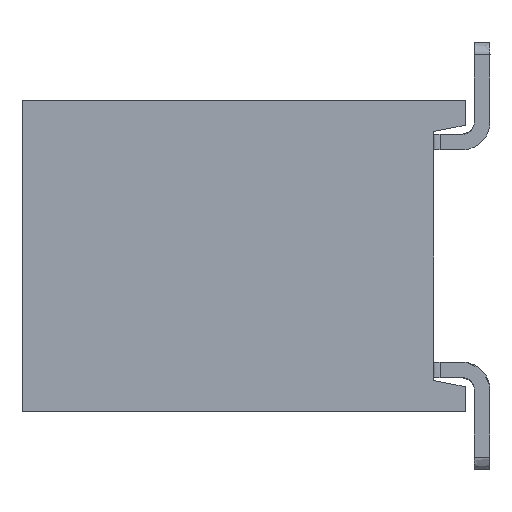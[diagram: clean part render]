
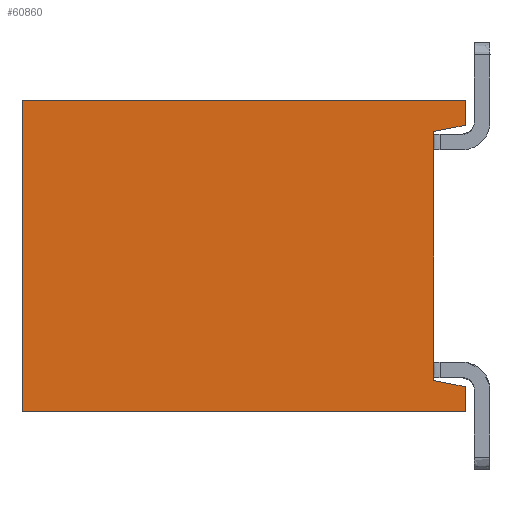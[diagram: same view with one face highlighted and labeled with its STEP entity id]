
A CAD part, left-side view. The second image highlights one B-rep face of the part: STEP entity #60860.
In plain terms, the highlighted planar face has unit normal (-1, 0, 0).
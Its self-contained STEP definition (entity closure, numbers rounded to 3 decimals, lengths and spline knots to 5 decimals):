
#506 = EDGE_CURVE ( 'NONE', #39117, #59824, #57997, .T. ) ;
#1946 = VERTEX_POINT ( 'NONE', #34047 ) ;
#3083 = CARTESIAN_POINT ( 'NONE',  ( 0., -0.27953, -0.18091 ) ) ;
#4962 = CARTESIAN_POINT ( 'NONE',  ( 0., -0.28512, -0.20079 ) ) ;
#5281 = EDGE_CURVE ( 'NONE', #38962, #56609, #55594, .T. ) ;
#6433 = VECTOR ( 'NONE', #21736, 39.37008 ) ;
#7430 = DIRECTION ( 'NONE',  ( 0., 0., 1. ) ) ;
#9858 = DIRECTION ( 'NONE',  ( 0., 0.981, 0.196 ) ) ;
#10481 = EDGE_CURVE ( 'NONE', #56609, #72304, #63456, .T. ) ;
#12020 = CARTESIAN_POINT ( 'NONE',  ( 0., -0.27953, 0. ) ) ;
#12766 = VECTOR ( 'NONE', #9858, 39.37008 ) ;
#13890 = VECTOR ( 'NONE', #35305, 39.37008 ) ;
#14030 = ORIENTED_EDGE ( 'NONE', *, *, #506, .F. ) ;
#14925 = CARTESIAN_POINT ( 'NONE',  ( 0., -0.28512, -0.19685 ) ) ;
#15715 = DIRECTION ( 'NONE',  ( 0., 0., 1. ) ) ;
#17575 = DIRECTION ( 'NONE',  ( 0., 0., 1. ) ) ;
#19495 = CARTESIAN_POINT ( 'NONE',  ( 0., -0.25984, -0.20079 ) ) ;
#20144 = ORIENTED_EDGE ( 'NONE', *, *, #70098, .T. ) ;
#20641 = VECTOR ( 'NONE', #52121, 39.37008 ) ;
#21736 = DIRECTION ( 'NONE',  ( 0., 0., 1. ) ) ;
#22625 = VECTOR ( 'NONE', #7430, 39.37008 ) ;
#25987 = VECTOR ( 'NONE', #15715, 39.37008 ) ;
#26697 = VECTOR ( 'NONE', #68856, 39.37008 ) ;
#27464 = ORIENTED_EDGE ( 'NONE', *, *, #43307, .T. ) ;
#29411 = LINE ( 'NONE', #40942, #12766 ) ;
#29902 = PLANE ( 'NONE',  #75687 ) ;
#31093 = EDGE_CURVE ( 'NONE', #72304, #59824, #39617, .T. ) ;
#34047 = CARTESIAN_POINT ( 'NONE',  ( 0., 0., -0.19685 ) ) ;
#35085 = CARTESIAN_POINT ( 'NONE',  ( 0., -0.27953, -0.01594 ) ) ;
#35305 = DIRECTION ( 'NONE',  ( 0., -0.981, 0.196 ) ) ;
#38175 = CARTESIAN_POINT ( 'NONE',  ( 0., -0.27953, -0.19685 ) ) ;
#38962 = VERTEX_POINT ( 'NONE', #44443 ) ;
#39117 = VERTEX_POINT ( 'NONE', #52194 ) ;
#39617 = LINE ( 'NONE', #71145, #6433 ) ;
#40942 = CARTESIAN_POINT ( 'NONE',  ( 0., -0.28026, -0.18105 ) ) ;
#41592 = VECTOR ( 'NONE', #52552, 39.37008 ) ;
#43307 = EDGE_CURVE ( 'NONE', #71377, #48660, #58923, .T. ) ;
#44434 = FACE_OUTER_BOUND ( 'NONE', #53862, .T. ) ;
#44443 = CARTESIAN_POINT ( 'NONE',  ( 0., -0.25984, -0.17697 ) ) ;
#45195 = ORIENTED_EDGE ( 'NONE', *, *, #10481, .T. ) ;
#45722 = ORIENTED_EDGE ( 'NONE', *, *, #54390, .T. ) ;
#46975 = CARTESIAN_POINT ( 'NONE',  ( 0., -0.27953, 0.00394 ) ) ;
#47951 = CARTESIAN_POINT ( 'NONE',  ( 0., -0.28512, 0. ) ) ;
#48660 = VERTEX_POINT ( 'NONE', #3083 ) ;
#49852 = ORIENTED_EDGE ( 'NONE', *, *, #68351, .F. ) ;
#51595 = ORIENTED_EDGE ( 'NONE', *, *, #5281, .T. ) ;
#52121 = DIRECTION ( 'NONE',  ( 0., -1., 0. ) ) ;
#52194 = CARTESIAN_POINT ( 'NONE',  ( 0., 0., 0. ) ) ;
#52552 = DIRECTION ( 'NONE',  ( 0., -1., 0. ) ) ;
#53862 = EDGE_LOOP ( 'NONE', ( #45722, #51595, #45195, #63748, #14030, #49852, #20144, #27464 ) ) ;
#54390 = EDGE_CURVE ( 'NONE', #48660, #38962, #29411, .T. ) ;
#54727 = DIRECTION ( 'NONE',  ( -1., 0., 0. ) ) ;
#55594 = LINE ( 'NONE', #19495, #22625 ) ;
#56609 = VERTEX_POINT ( 'NONE', #70779 ) ;
#57997 = LINE ( 'NONE', #47951, #41592 ) ;
#58923 = LINE ( 'NONE', #46975, #25987 ) ;
#59824 = VERTEX_POINT ( 'NONE', #12020 ) ;
#60860 = ADVANCED_FACE ( 'NONE', ( #44434 ), #29902, .T. ) ;
#62589 = CARTESIAN_POINT ( 'NONE',  ( 0., 0., 0.00394 ) ) ;
#63456 = LINE ( 'NONE', #78952, #13890 ) ;
#63748 = ORIENTED_EDGE ( 'NONE', *, *, #31093, .T. ) ;
#68351 = EDGE_CURVE ( 'NONE', #1946, #39117, #76183, .T. ) ;
#68856 = DIRECTION ( 'NONE',  ( 0., 0., 1. ) ) ;
#70098 = EDGE_CURVE ( 'NONE', #1946, #71377, #72149, .T. ) ;
#70779 = CARTESIAN_POINT ( 'NONE',  ( 0., -0.25984, -0.01988 ) ) ;
#71145 = CARTESIAN_POINT ( 'NONE',  ( 0., -0.27953, 0.00394 ) ) ;
#71377 = VERTEX_POINT ( 'NONE', #38175 ) ;
#72149 = LINE ( 'NONE', #14925, #20641 ) ;
#72304 = VERTEX_POINT ( 'NONE', #35085 ) ;
#75687 = AXIS2_PLACEMENT_3D ( 'NONE', #4962, #54727, #17575 ) ;
#76183 = LINE ( 'NONE', #62589, #26697 ) ;
#78952 = CARTESIAN_POINT ( 'NONE',  ( 0., -0.25984, -0.01988 ) ) ;
